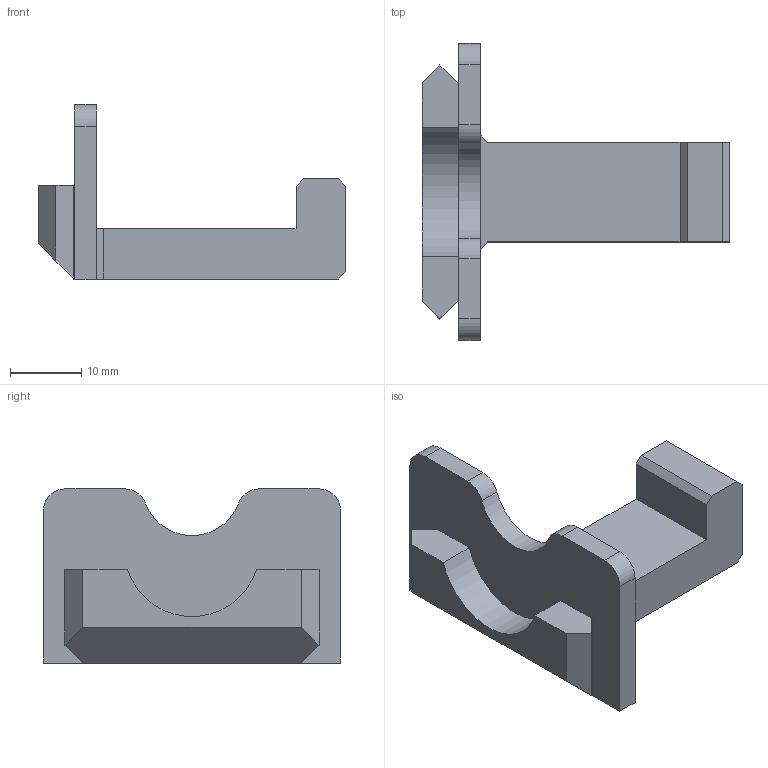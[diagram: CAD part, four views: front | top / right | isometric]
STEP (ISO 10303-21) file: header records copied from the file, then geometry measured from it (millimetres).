
FILE_DESCRIPTION(/* description */ ('','CAx-IF Rec.Pracs.---Representation and Presentation of Product Manufacturing Information (PMI)---4.0---2014-10-13'),/* implementation_level */ '2;1');
FILE_NAME(/* name */ 'GOEWS Single Hanger Hook 35mm.step',/* time_stamp */ '2024-11-28T10:00:28-05:00',/* author */ (''),/* organization */ (''),/* preprocessor_version */ 'ST-DEVELOPER v20',/* originating_system */ 'Autodesk Translation Framework v13.20.0.188',/* authorisation */ '');
FILE_SCHEMA (('AP242_MANAGED_MODEL_BASED_3D_ENGINEERING_MIM_LF { 1 0 10303 442 1 1 4 }'));
Length unit declared in the file: millimetre
Products named in the file (1): GOEWS Single Hanger Hook 35mm
Bounding box: 43.15 x 41.6 x 24.39 mm (x, y, z)
Volume: 8297 mm3; surface area: 4454.3 mm2
Topology: 1 solids, 1 shells, 35 faces, 94 edges, 62 vertices
Faces by surface type: plane 29, cylinder 6
Entity records: 1117 total; most frequent: CARTESIAN_POINT 192, ORIENTED_EDGE 188, DIRECTION 178, EDGE_CURVE 94, LINE 82, VECTOR 82, VERTEX_POINT 62, AXIS2_PLACEMENT_3D 48
